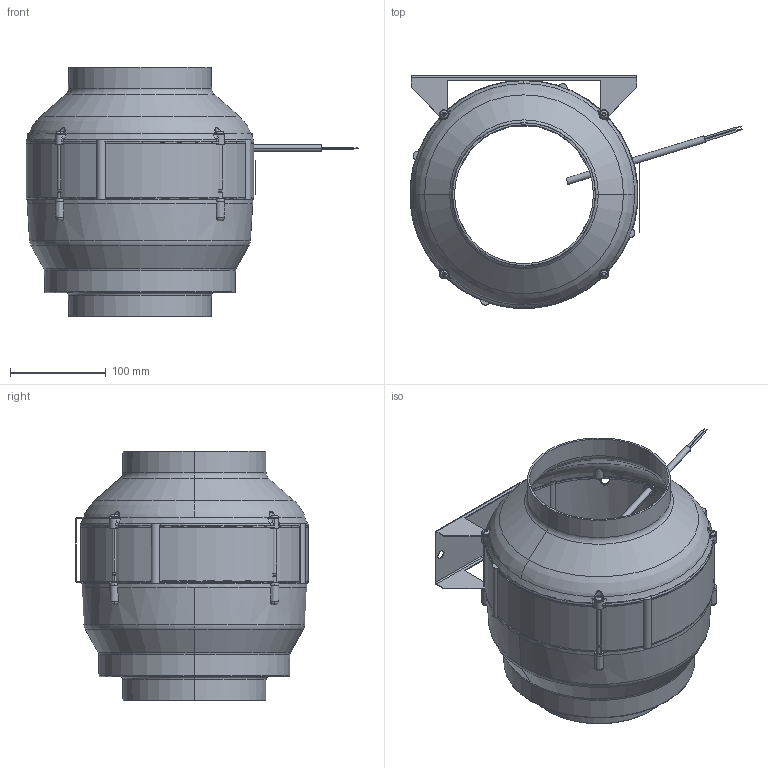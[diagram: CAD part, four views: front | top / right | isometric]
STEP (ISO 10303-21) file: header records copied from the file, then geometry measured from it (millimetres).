
FILE_DESCRIPTION (( 'STEP AP203' ), '1' );
FILE_NAME ('125329-00_EL150LE201.STEP', '2013-10-01T13:19:13', ( '' ), ( '' ), 'SwSTEP 2.0', 'SolidWorks 2012', '' );
FILE_SCHEMA (( 'CONFIG_CONTROL_DESIGN' ));
Length unit declared in the file: millimetre
Products named in the file (1): 125329-00_EL150LE201
Bounding box: 345.99 x 243.06 x 260 mm (x, y, z)
Surface area: 444020.4 mm2 (no closed solid volume)
Topology: 0 solids, 30 shells, 467 faces, 1737 edges, 1266 vertices
Faces by surface type: cylinder 163, plane 93, torus 82, cone 77, bspline 52
Entity records: 24349 total; most frequent: CARTESIAN_POINT 10236, DIRECTION 2919, ORIENTED_EDGE 2719, EDGE_CURVE 1737, VERTEX_POINT 1266, AXIS2_PLACEMENT_3D 1228, CIRCLE 812, EDGE_LOOP 526
